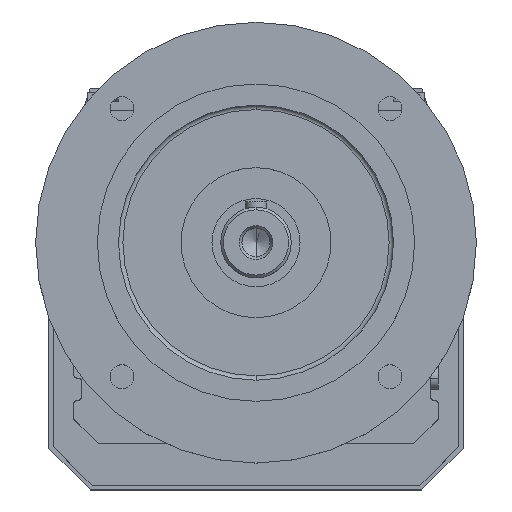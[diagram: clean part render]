
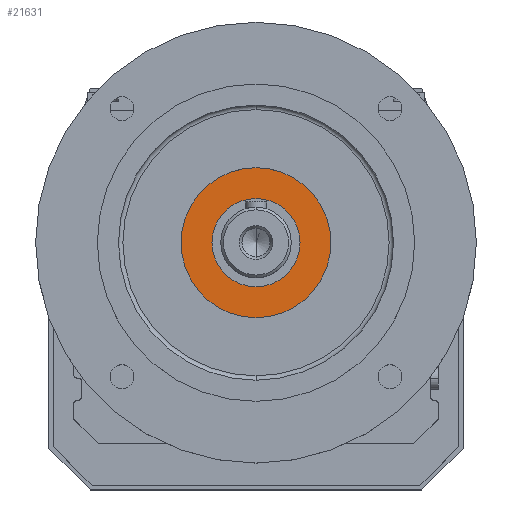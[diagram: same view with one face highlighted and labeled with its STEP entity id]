
A CAD part, top view. The second image highlights one B-rep face of the part: STEP entity #21631.
In plain terms, the highlighted planar face has unit normal (0, 0, 1).
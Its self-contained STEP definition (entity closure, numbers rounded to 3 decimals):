
#21396 = CYLINDRICAL_SURFACE('',#21397,42.525);
#21397 = AXIS2_PLACEMENT_3D('',#21398,#21399,#21400);
#21398 = CARTESIAN_POINT('',(0.,15.9,300.));
#21399 = DIRECTION('',(0.,0.,1.));
#21400 = DIRECTION('',(0.,-1.,0.));
#21449 = CYLINDRICAL_SURFACE('',#21450,42.525);
#21450 = AXIS2_PLACEMENT_3D('',#21451,#21452,#21453);
#21451 = CARTESIAN_POINT('',(0.,15.9,300.));
#21452 = DIRECTION('',(0.,0.,1.));
#21453 = DIRECTION('',(0.,-1.,0.));
#21490 = EDGE_CURVE('',#21491,#21493,#21495,.T.);
#21491 = VERTEX_POINT('',#21492);
#21492 = CARTESIAN_POINT('',(0.,-26.625,212.));
#21493 = VERTEX_POINT('',#21494);
#21494 = CARTESIAN_POINT('',(0.,58.425,212.));
#21495 = SURFACE_CURVE('',#21496,(#21501,#21530),.PCURVE_S1.);
#21496 = CIRCLE('',#21497,42.525);
#21497 = AXIS2_PLACEMENT_3D('',#21498,#21499,#21500);
#21498 = CARTESIAN_POINT('',(0.,15.9,212.));
#21499 = DIRECTION('',(0.,0.,-1.));
#21500 = DIRECTION('',(-1.,0.,0.));
#21501 = PCURVE('',#21449,#21502);
#21502 = DEFINITIONAL_REPRESENTATION('',(#21503),#21529);
#21503 = B_SPLINE_CURVE_WITH_KNOTS('',3,(#21504,#21505,#21506,#21507,
    #21508,#21509,#21510,#21511,#21512,#21513,#21514,#21515,#21516,
    #21517,#21518,#21519,#21520,#21521,#21522,#21523,#21524,#21525,
    #21526,#21527,#21528),.UNSPECIFIED.,.F.,.F.,(4,1,1,1,1,1,1,1,1,1,1,1
    ,1,1,1,1,1,1,1,1,1,1,4),(4.712,4.855,
    4.998,5.141,5.284,5.426,
    5.569,5.712,5.855,5.998,
    6.14,6.283,6.426,6.569,
    6.712,6.854,6.997,7.14,
    7.283,7.426,7.568,7.711,
    7.854),.QUASI_UNIFORM_KNOTS.);
#21504 = CARTESIAN_POINT('',(6.283,-88.));
#21505 = CARTESIAN_POINT('',(6.236,-88.));
#21506 = CARTESIAN_POINT('',(6.14,-88.));
#21507 = CARTESIAN_POINT('',(5.998,-88.));
#21508 = CARTESIAN_POINT('',(5.855,-88.));
#21509 = CARTESIAN_POINT('',(5.712,-88.));
#21510 = CARTESIAN_POINT('',(5.569,-88.));
#21511 = CARTESIAN_POINT('',(5.426,-88.));
#21512 = CARTESIAN_POINT('',(5.284,-88.));
#21513 = CARTESIAN_POINT('',(5.141,-88.));
#21514 = CARTESIAN_POINT('',(4.998,-88.));
#21515 = CARTESIAN_POINT('',(4.855,-88.));
#21516 = CARTESIAN_POINT('',(4.712,-88.));
#21517 = CARTESIAN_POINT('',(4.57,-88.));
#21518 = CARTESIAN_POINT('',(4.427,-88.));
#21519 = CARTESIAN_POINT('',(4.284,-88.));
#21520 = CARTESIAN_POINT('',(4.141,-88.));
#21521 = CARTESIAN_POINT('',(3.998,-88.));
#21522 = CARTESIAN_POINT('',(3.856,-88.));
#21523 = CARTESIAN_POINT('',(3.713,-88.));
#21524 = CARTESIAN_POINT('',(3.57,-88.));
#21525 = CARTESIAN_POINT('',(3.427,-88.));
#21526 = CARTESIAN_POINT('',(3.284,-88.));
#21527 = CARTESIAN_POINT('',(3.189,-88.));
#21528 = CARTESIAN_POINT('',(3.142,-88.));
#21529 = ( GEOMETRIC_REPRESENTATION_CONTEXT(2) 
PARAMETRIC_REPRESENTATION_CONTEXT() REPRESENTATION_CONTEXT('2D SPACE',''
  ) );
#21530 = PCURVE('',#21531,#21536);
#21531 = PLANE('',#21532);
#21532 = AXIS2_PLACEMENT_3D('',#21533,#21534,#21535);
#21533 = CARTESIAN_POINT('',(-18.344,9.044,212.));
#21534 = DIRECTION('',(0.,0.,-1.));
#21535 = DIRECTION('',(-1.,0.,0.));
#21536 = DEFINITIONAL_REPRESENTATION('',(#21537),#21541);
#21537 = CIRCLE('',#21538,42.525);
#21538 = AXIS2_PLACEMENT_2D('',#21539,#21540);
#21539 = CARTESIAN_POINT('',(-18.344,6.856));
#21540 = DIRECTION('',(1.,0.));
#21541 = ( GEOMETRIC_REPRESENTATION_CONTEXT(2) 
PARAMETRIC_REPRESENTATION_CONTEXT() REPRESENTATION_CONTEXT('2D SPACE',''
  ) );
#21588 = EDGE_CURVE('',#21493,#21491,#21589,.T.);
#21589 = SURFACE_CURVE('',#21590,(#21595,#21624),.PCURVE_S1.);
#21590 = CIRCLE('',#21591,42.525);
#21591 = AXIS2_PLACEMENT_3D('',#21592,#21593,#21594);
#21592 = CARTESIAN_POINT('',(0.,15.9,212.));
#21593 = DIRECTION('',(0.,0.,-1.));
#21594 = DIRECTION('',(-1.,0.,0.));
#21595 = PCURVE('',#21396,#21596);
#21596 = DEFINITIONAL_REPRESENTATION('',(#21597),#21623);
#21597 = B_SPLINE_CURVE_WITH_KNOTS('',3,(#21598,#21599,#21600,#21601,
    #21602,#21603,#21604,#21605,#21606,#21607,#21608,#21609,#21610,
    #21611,#21612,#21613,#21614,#21615,#21616,#21617,#21618,#21619,
    #21620,#21621,#21622),.UNSPECIFIED.,.F.,.F.,(4,1,1,1,1,1,1,1,1,1,1,1
    ,1,1,1,1,1,1,1,1,1,1,4),(1.571,1.714,
    1.856,1.999,2.142,2.285,
    2.428,2.57,2.713,2.856,
    2.999,3.142,3.284,3.427,
    3.57,3.713,3.856,3.998,
    4.141,4.284,4.427,4.57,
    4.712),.QUASI_UNIFORM_KNOTS.);
#21598 = CARTESIAN_POINT('',(3.142,-88.));
#21599 = CARTESIAN_POINT('',(3.094,-88.));
#21600 = CARTESIAN_POINT('',(2.999,-88.));
#21601 = CARTESIAN_POINT('',(2.856,-88.));
#21602 = CARTESIAN_POINT('',(2.713,-88.));
#21603 = CARTESIAN_POINT('',(2.57,-88.));
#21604 = CARTESIAN_POINT('',(2.428,-88.));
#21605 = CARTESIAN_POINT('',(2.285,-88.));
#21606 = CARTESIAN_POINT('',(2.142,-88.));
#21607 = CARTESIAN_POINT('',(1.999,-88.));
#21608 = CARTESIAN_POINT('',(1.856,-88.));
#21609 = CARTESIAN_POINT('',(1.714,-88.));
#21610 = CARTESIAN_POINT('',(1.571,-88.));
#21611 = CARTESIAN_POINT('',(1.428,-88.));
#21612 = CARTESIAN_POINT('',(1.285,-88.));
#21613 = CARTESIAN_POINT('',(1.142,-88.));
#21614 = CARTESIAN_POINT('',(1.,-88.));
#21615 = CARTESIAN_POINT('',(0.857,-88.));
#21616 = CARTESIAN_POINT('',(0.714,-88.));
#21617 = CARTESIAN_POINT('',(0.571,-88.));
#21618 = CARTESIAN_POINT('',(0.428,-88.));
#21619 = CARTESIAN_POINT('',(0.286,-88.));
#21620 = CARTESIAN_POINT('',(0.143,-88.));
#21621 = CARTESIAN_POINT('',(0.048,-88.));
#21622 = CARTESIAN_POINT('',(0.,-88.));
#21623 = ( GEOMETRIC_REPRESENTATION_CONTEXT(2) 
PARAMETRIC_REPRESENTATION_CONTEXT() REPRESENTATION_CONTEXT('2D SPACE',''
  ) );
#21624 = PCURVE('',#21531,#21625);
#21625 = DEFINITIONAL_REPRESENTATION('',(#21626),#21630);
#21626 = CIRCLE('',#21627,42.525);
#21627 = AXIS2_PLACEMENT_2D('',#21628,#21629);
#21628 = CARTESIAN_POINT('',(-18.344,6.856));
#21629 = DIRECTION('',(1.,0.));
#21630 = ( GEOMETRIC_REPRESENTATION_CONTEXT(2) 
PARAMETRIC_REPRESENTATION_CONTEXT() REPRESENTATION_CONTEXT('2D SPACE',''
  ) );
#21631 = ADVANCED_FACE('',(#21632,#21698),#21531,.F.);
#21632 = FACE_BOUND('',#21633,.T.);
#21633 = EDGE_LOOP('',(#21634,#21668));
#21634 = ORIENTED_EDGE('',*,*,#21635,.F.);
#21635 = EDGE_CURVE('',#21636,#21638,#21640,.T.);
#21636 = VERTEX_POINT('',#21637);
#21637 = CARTESIAN_POINT('',(0.,-9.1,212.));
#21638 = VERTEX_POINT('',#21639);
#21639 = CARTESIAN_POINT('',(0.,40.9,212.));
#21640 = SURFACE_CURVE('',#21641,(#21646,#21657),.PCURVE_S1.);
#21641 = CIRCLE('',#21642,25.);
#21642 = AXIS2_PLACEMENT_3D('',#21643,#21644,#21645);
#21643 = CARTESIAN_POINT('',(0.,15.9,212.));
#21644 = DIRECTION('',(0.,0.,1.));
#21645 = DIRECTION('',(-1.,0.,0.));
#21646 = PCURVE('',#21531,#21647);
#21647 = DEFINITIONAL_REPRESENTATION('',(#21648),#21656);
#21648 = ( BOUNDED_CURVE() B_SPLINE_CURVE(2,(#21649,#21650,#21651,#21652
    ,#21653,#21654,#21655),.UNSPECIFIED.,.F.,.F.) 
B_SPLINE_CURVE_WITH_KNOTS((1,2,2,2,2,1),(-2.094,0.,
    2.094,4.189,6.283,8.378),
.UNSPECIFIED.) CURVE() GEOMETRIC_REPRESENTATION_ITEM() 
RATIONAL_B_SPLINE_CURVE((1.,0.5,1.,0.5,1.,0.5,1.)) REPRESENTATION_ITEM(
  '') );
#21649 = CARTESIAN_POINT('',(6.656,6.856));
#21650 = CARTESIAN_POINT('',(6.656,-36.445));
#21651 = CARTESIAN_POINT('',(-30.844,-14.794));
#21652 = CARTESIAN_POINT('',(-68.344,6.856));
#21653 = CARTESIAN_POINT('',(-30.844,28.507));
#21654 = CARTESIAN_POINT('',(6.656,50.157));
#21655 = CARTESIAN_POINT('',(6.656,6.856));
#21656 = ( GEOMETRIC_REPRESENTATION_CONTEXT(2) 
PARAMETRIC_REPRESENTATION_CONTEXT() REPRESENTATION_CONTEXT('2D SPACE',''
  ) );
#21657 = PCURVE('',#21658,#21663);
#21658 = CYLINDRICAL_SURFACE('',#21659,25.);
#21659 = AXIS2_PLACEMENT_3D('',#21660,#21661,#21662);
#21660 = CARTESIAN_POINT('',(0.,15.9,300.));
#21661 = DIRECTION('',(0.,0.,1.));
#21662 = DIRECTION('',(0.,-1.,0.));
#21663 = DEFINITIONAL_REPRESENTATION('',(#21664),#21667);
#21664 = B_SPLINE_CURVE_WITH_KNOTS('',1,(#21665,#21666),.UNSPECIFIED.,
  .F.,.F.,(2,2),(1.571,4.712),
  .PIECEWISE_BEZIER_KNOTS.);
#21665 = CARTESIAN_POINT('',(0.,-88.));
#21666 = CARTESIAN_POINT('',(3.142,-88.));
#21667 = ( GEOMETRIC_REPRESENTATION_CONTEXT(2) 
PARAMETRIC_REPRESENTATION_CONTEXT() REPRESENTATION_CONTEXT('2D SPACE',''
  ) );
#21668 = ORIENTED_EDGE('',*,*,#21669,.F.);
#21669 = EDGE_CURVE('',#21638,#21636,#21670,.T.);
#21670 = SURFACE_CURVE('',#21671,(#21676,#21687),.PCURVE_S1.);
#21671 = CIRCLE('',#21672,25.);
#21672 = AXIS2_PLACEMENT_3D('',#21673,#21674,#21675);
#21673 = CARTESIAN_POINT('',(0.,15.9,212.));
#21674 = DIRECTION('',(0.,0.,1.));
#21675 = DIRECTION('',(-1.,0.,0.));
#21676 = PCURVE('',#21531,#21677);
#21677 = DEFINITIONAL_REPRESENTATION('',(#21678),#21686);
#21678 = ( BOUNDED_CURVE() B_SPLINE_CURVE(2,(#21679,#21680,#21681,#21682
    ,#21683,#21684,#21685),.UNSPECIFIED.,.F.,.F.) 
B_SPLINE_CURVE_WITH_KNOTS((1,2,2,2,2,1),(-2.094,0.,
    2.094,4.189,6.283,8.378),
.UNSPECIFIED.) CURVE() GEOMETRIC_REPRESENTATION_ITEM() 
RATIONAL_B_SPLINE_CURVE((1.,0.5,1.,0.5,1.,0.5,1.)) REPRESENTATION_ITEM(
  '') );
#21679 = CARTESIAN_POINT('',(6.656,6.856));
#21680 = CARTESIAN_POINT('',(6.656,-36.445));
#21681 = CARTESIAN_POINT('',(-30.844,-14.794));
#21682 = CARTESIAN_POINT('',(-68.344,6.856));
#21683 = CARTESIAN_POINT('',(-30.844,28.507));
#21684 = CARTESIAN_POINT('',(6.656,50.157));
#21685 = CARTESIAN_POINT('',(6.656,6.856));
#21686 = ( GEOMETRIC_REPRESENTATION_CONTEXT(2) 
PARAMETRIC_REPRESENTATION_CONTEXT() REPRESENTATION_CONTEXT('2D SPACE',''
  ) );
#21687 = PCURVE('',#21688,#21693);
#21688 = CYLINDRICAL_SURFACE('',#21689,25.);
#21689 = AXIS2_PLACEMENT_3D('',#21690,#21691,#21692);
#21690 = CARTESIAN_POINT('',(0.,15.9,300.));
#21691 = DIRECTION('',(0.,0.,1.));
#21692 = DIRECTION('',(0.,-1.,0.));
#21693 = DEFINITIONAL_REPRESENTATION('',(#21694),#21697);
#21694 = B_SPLINE_CURVE_WITH_KNOTS('',1,(#21695,#21696),.UNSPECIFIED.,
  .F.,.F.,(2,2),(4.712,7.854),
  .PIECEWISE_BEZIER_KNOTS.);
#21695 = CARTESIAN_POINT('',(3.142,-88.));
#21696 = CARTESIAN_POINT('',(6.283,-88.));
#21697 = ( GEOMETRIC_REPRESENTATION_CONTEXT(2) 
PARAMETRIC_REPRESENTATION_CONTEXT() REPRESENTATION_CONTEXT('2D SPACE',''
  ) );
#21698 = FACE_BOUND('',#21699,.T.);
#21699 = EDGE_LOOP('',(#21700,#21701));
#21700 = ORIENTED_EDGE('',*,*,#21490,.F.);
#21701 = ORIENTED_EDGE('',*,*,#21588,.F.);
